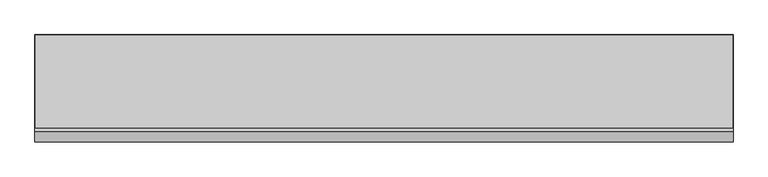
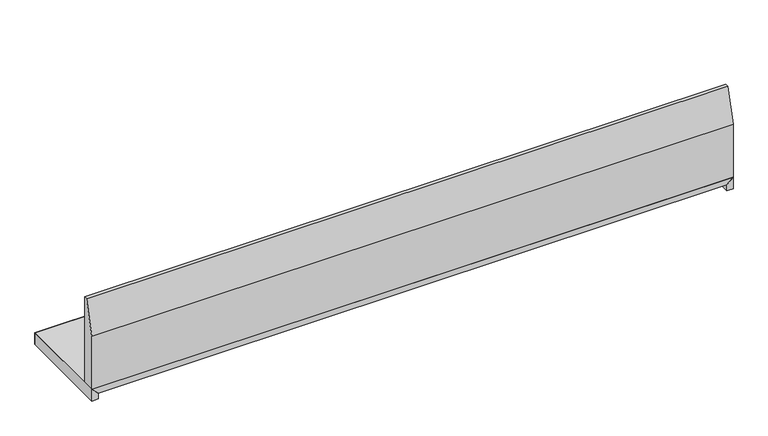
"""IFC4 building model written with IfcOpenShell, lengths in millimetres: proxy geometry, AERO^OFFICE 4_78 WALL HUNG-SHELF."""

from ifc_helpers import new_model, si_unit, frame, origin, place, context, project, spatial, polyline, outline, extrude, faceted_brep, source, transform, mapped, element, save


def generic_models_fffcd645(model_context):
    return source(origin(), model_context, "Body", "SolidModel", [
        faceted_brep([(0.0, 304.8, 0.0), (0.0, 304.8, -38.1), (0.0, 0.0, -38.1), (0.0, 0.0, 0.0), (19.05, 285.75, -38.1), (19.05, 0.0, -38.1), (19.05, 285.75, -19.05), (19.05, 0.0, -19.05)], [[[0, 1, 2, 3]], [[1, 4, 5, 2]], [[4, 6, 7, 5]], [[6, 0, 3, 7]], [[3, 2, 5, 7]], [[4, 1, 0, 6]]]),
        faceted_brep([(1962.15, 285.75, -38.1), (1981.2, 304.8, -38.1), (1981.2, 304.8, 0.0), (1962.15, 285.75, -19.05), (19.05, 285.75, -19.05), (19.05, 285.75, -38.1), (0.0, 304.8, 0.0), (0.0, 304.8, -38.1)], [[[0, 1, 2, 3]], [[0, 3, 4, 5]], [[3, 2, 6, 4]], [[4, 6, 7, 5]], [[1, 0, 5, 7]], [[7, 6, 2, 1]]]),
        faceted_brep([(1981.2, 304.8, -38.1), (1981.2, 304.8, 0.0), (1981.2, 0.0, 0.0), (1981.2, 0.0, -38.1), (1962.15, 285.75, -19.05), (1962.15, 0.0, -19.05), (1962.15, 285.75, -38.1), (1962.15, 0.0, -38.1)], [[[0, 1, 2, 3]], [[1, 4, 5, 2]], [[4, 6, 7, 5]], [[6, 0, 3, 7]], [[3, 2, 5, 7]], [[4, 1, 0, 6]]]),
        extrude(outline(polyline([(0.0, 172.7566482), (28.575, 279.4), (38.1, 279.4), (38.1, 0.0), (0.0, 0.0), (0.0, 172.7566482)])), frame((0.0, 0.0, 0.0), z_axis=(1.0, 0.0, 0.0), x_axis=(0.0, 1.0, 0.0)), (0.0, 0.0, 1.0), 1981.2),
        faceted_brep([(1962.15, 285.75, -19.05), (1981.2, 304.8, 0.0), (1981.2, 0.0, 0.0), (1962.15, 0.0, -19.05), (19.05, 285.75, -19.05), (0.0, 304.8, 0.0), (19.05, 0.0, -19.05), (0.0, 0.0, 0.0)], [[[0, 1, 2, 3]], [[1, 0, 4, 5]], [[0, 3, 6, 4]], [[5, 4, 6, 7]], [[3, 2, 7, 6]], [[5, 7, 2, 1]]]),
    ])


if __name__ == "__main__":
    model = new_model("IFC4")
    model_context = context("Model", 3, world=origin())
    ifc_project = project(units=[si_unit("LENGTHUNIT", "METRE", prefix="MILLI")], contexts=[model_context])
    site = spatial("IfcSite", under=ifc_project)
    building = spatial("IfcBuilding", under=site)
    placement = place(None, origin())
    generic_models_shape = generic_models_fffcd645(model_context)
    element("IfcBuildingElementProxy", 1, Name="AERO^OFFICE 4_78 WALL HUNG-SHELF", ObjectType="AERO^OFFICE 4_78 WALL HUNG-SHELF", at=placement, inside=building, context=model_context, shape_type="MappedRepresentation", body=[
        mapped(generic_models_shape, transform((0.0, 0.0, 0.0), x_axis=(1.0, 0.0, 0.0), y_axis=(0.0, 1.0, 0.0), z_axis=(0.0, 0.0, 1.0))),
    ])
    save(model, "model.ifc")
